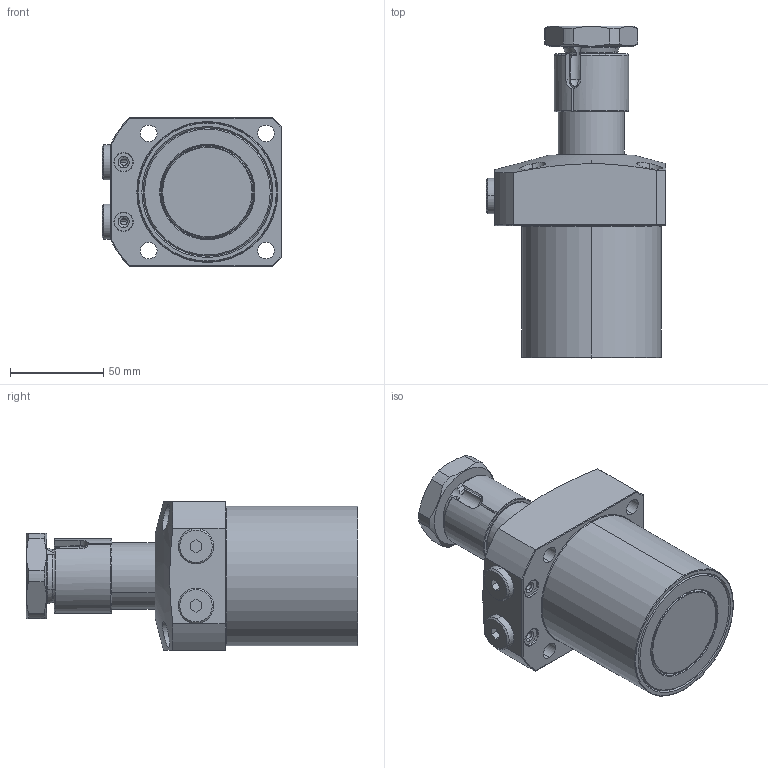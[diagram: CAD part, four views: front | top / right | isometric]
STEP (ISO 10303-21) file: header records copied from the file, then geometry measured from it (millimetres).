
FILE_DESCRIPTION(/* description */ (''),/* implementation_level */ '2;1');
FILE_NAME(/* name */ 'KTRC75-RN60.stp',/* time_stamp */ '2022-11-18T10:40:30+08:00',/* author */ (''),/* organization */ (''),/* preprocessor_version */ 'ST-DEVELOPER v16.7',/* originating_system */ 'SIEMENS PLM Software NX 12.0',/* authorisation */ '');
FILE_SCHEMA (('AP203_CONFIGURATION_CONTROLLED_3D_DESIGN_OF_MECHANICAL_PARTS_AND_ASSEMBLIES_MIM_LF { 1 0 10303 403 2 1 2}'));
Length unit declared in the file: millimetre
Products named in the file (7): KTRC75-RN60-01; KTRC75-RN60-05; KTRC75-RN60-04; KTRC75-RN60-03; KTRC75-RN60-02; KTRC75-RN60-06; LHA0750-CL-Y60_step
Assembly tree (7 placements, depth 2):
  LHA0750-CL-Y60_step
    KTRC75-RN60-06  x2
    KTRC75-RN60-02
    KTRC75-RN60-03
    KTRC75-RN60-04
    KTRC75-RN60-05
    KTRC75-RN60-01
Bounding box: 96.5 x 178.3 x 80 mm (x, y, z)
Volume: 635775.8 mm3; surface area: 77110.7 mm2
Topology: 7 solids, 7 shells, 238 faces, 559 edges, 349 vertices
Faces by surface type: cylinder 81, plane 80, cone 51, torus 24, sphere 2
Entity records: 7920 total; most frequent: CARTESIAN_POINT 1917, DIRECTION 1119, ORIENTED_EDGE 1058, EDGE_CURVE 529, AXIS2_PLACEMENT_3D 459, VERTEX_POINT 331, EDGE_LOOP 254, CIRCLE 226
